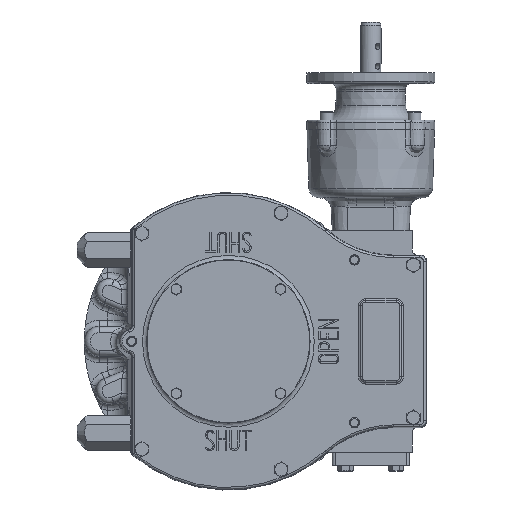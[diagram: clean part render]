
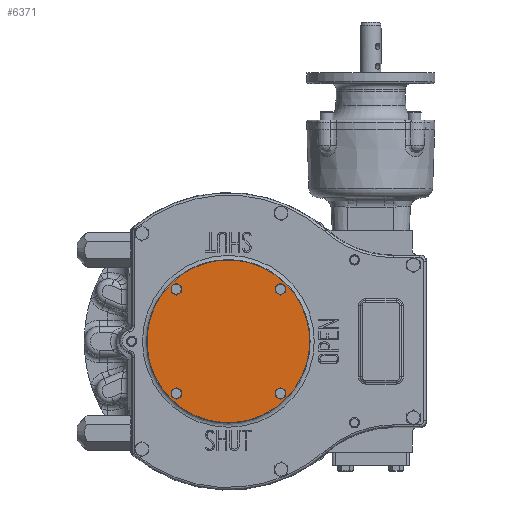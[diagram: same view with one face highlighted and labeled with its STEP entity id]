
A CAD part, top view. The second image highlights one B-rep face of the part: STEP entity #6371.
In plain terms, the highlighted planar face has unit normal (0, 0, 1).
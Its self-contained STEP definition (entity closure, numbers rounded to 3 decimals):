
#6371 = ADVANCED_FACE( '', ( #13700, #13701, #13702, #13703, #13704 ), #13705, .F. );
#13700 = FACE_BOUND( '', #47674, .T. );
#13701 = FACE_BOUND( '', #47675, .T. );
#13702 = FACE_BOUND( '', #47676, .T. );
#13703 = FACE_BOUND( '', #47677, .T. );
#13704 = FACE_OUTER_BOUND( '', #47678, .T. );
#13705 = PLANE( '', #47679 );
#47674 = EDGE_LOOP( '', ( #71874 ) );
#47675 = EDGE_LOOP( '', ( #71875 ) );
#47676 = EDGE_LOOP( '', ( #71876 ) );
#47677 = EDGE_LOOP( '', ( #71877 ) );
#47678 = EDGE_LOOP( '', ( #71878 ) );
#47679 = AXIS2_PLACEMENT_3D( '', #71879, #71880, #71881 );
#71874 = ORIENTED_EDGE( '', *, *, #78929, .T. );
#71875 = ORIENTED_EDGE( '', *, *, #78974, .T. );
#71876 = ORIENTED_EDGE( '', *, *, #84572, .T. );
#71877 = ORIENTED_EDGE( '', *, *, #84573, .T. );
#71878 = ORIENTED_EDGE( '', *, *, #79784, .F. );
#71879 = CARTESIAN_POINT( '', ( 0., 0., 104. ) );
#71880 = DIRECTION( '', ( 0., 0., -1. ) );
#71881 = DIRECTION( '', ( -0.707, -0.707, 0. ) );
#78929 = EDGE_CURVE( '', #88565, #88565, #88566, .T. );
#78974 = EDGE_CURVE( '', #88644, #88644, #88645, .T. );
#79784 = EDGE_CURVE( '', #89991, #89991, #89992, .T. );
#84572 = EDGE_CURVE( '', #96607, #96607, #96608, .T. );
#84573 = EDGE_CURVE( '', #96609, #96609, #96610, .T. );
#88565 = VERTEX_POINT( '', #105875 );
#88566 = CIRCLE( '', #105876, 5. );
#88644 = VERTEX_POINT( '', #106048 );
#88645 = CIRCLE( '', #106049, 5. );
#89991 = VERTEX_POINT( '', #111446 );
#89992 = CIRCLE( '', #111447, 80. );
#96607 = VERTEX_POINT( '', #132972 );
#96608 = CIRCLE( '', #132973, 5. );
#96609 = VERTEX_POINT( '', #132974 );
#96610 = CIRCLE( '', #132975, 5. );
#105875 = CARTESIAN_POINT( '', ( -47.73, -47.73, 104. ) );
#105876 = AXIS2_PLACEMENT_3D( '', #137124, #137125, #137126 );
#106048 = CARTESIAN_POINT( '', ( 54.801, -47.73, 104. ) );
#106049 = AXIS2_PLACEMENT_3D( '', #137187, #137188, #137189 );
#111446 = CARTESIAN_POINT( '', ( 56.569, 56.569, 104. ) );
#111447 = AXIS2_PLACEMENT_3D( '', #138080, #138081, #138082 );
#132972 = CARTESIAN_POINT( '', ( 54.801, 54.801, 104. ) );
#132973 = AXIS2_PLACEMENT_3D( '', #143365, #143366, #143367 );
#132974 = CARTESIAN_POINT( '', ( -47.73, 54.801, 104. ) );
#132975 = AXIS2_PLACEMENT_3D( '', #143368, #143369, #143370 );
#137124 = CARTESIAN_POINT( '', ( -51.265, -51.265, 104. ) );
#137125 = DIRECTION( '', ( 0., 0., -1. ) );
#137126 = DIRECTION( '', ( 0.707, 0.707, 0. ) );
#137187 = CARTESIAN_POINT( '', ( 51.265, -51.265, 104. ) );
#137188 = DIRECTION( '', ( 0., 0., -1. ) );
#137189 = DIRECTION( '', ( 0.707, 0.707, 0. ) );
#138080 = CARTESIAN_POINT( '', ( 0., 0., 104. ) );
#138081 = DIRECTION( '', ( 0., 0., -1. ) );
#138082 = DIRECTION( '', ( 0.707, 0.707, 0. ) );
#143365 = CARTESIAN_POINT( '', ( 51.265, 51.265, 104. ) );
#143366 = DIRECTION( '', ( 0., 0., -1. ) );
#143367 = DIRECTION( '', ( 0.707, 0.707, 0. ) );
#143368 = CARTESIAN_POINT( '', ( -51.265, 51.265, 104. ) );
#143369 = DIRECTION( '', ( 0., 0., -1. ) );
#143370 = DIRECTION( '', ( 0.707, 0.707, 0. ) );
